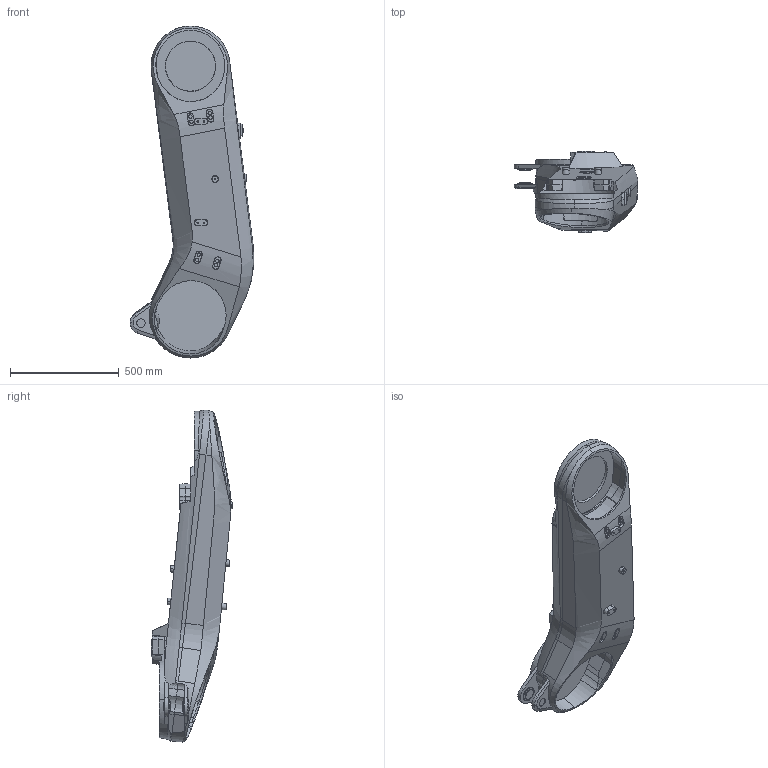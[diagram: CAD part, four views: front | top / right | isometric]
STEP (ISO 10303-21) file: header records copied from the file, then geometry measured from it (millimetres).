
FILE_DESCRIPTION (( 'STEP AP203' ), '1' );
FILE_NAME ('IRB6700-MH6_220-300_IRC5_rev00_LINK02_CAD.STEP', '2014-08-27T11:28:23', ( 'ABB' ), ( 'ABB' ), 'SwSTEP 2.0', 'SolidWorks 2012', '' );
FILE_SCHEMA (( 'CONFIG_CONTROL_DESIGN' ));
Length unit declared in the file: millimetre
Products named in the file (1): IRB6700-MH6_220-300_IRC5_rev00_LINK02_CAD
Bounding box: 568.81 x 376 x 1525.13 mm (x, y, z)
Volume: 78033869.9 mm3; surface area: 2097612.8 mm2
Topology: 1 solids, 1 shells, 484 faces, 1229 edges, 798 vertices
Faces by surface type: plane 249, bspline 120, cylinder 89, cone 26
Entity records: 40390 total; most frequent: CARTESIAN_POINT 29808, ORIENTED_EDGE 2458, DIRECTION 1681, EDGE_CURVE 1229, VERTEX_POINT 798, VECTOR 577, LINE 577, AXIS2_PLACEMENT_3D 552
